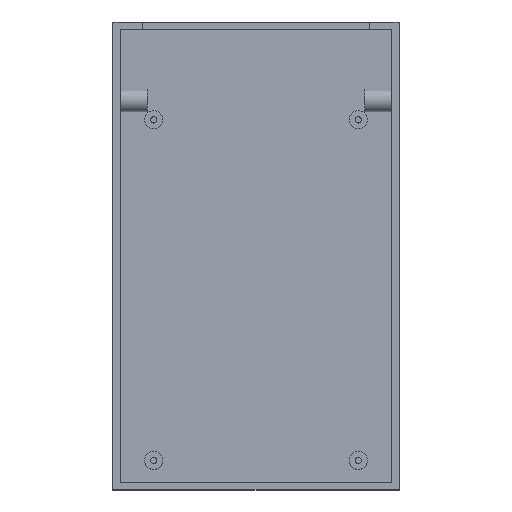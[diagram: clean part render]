
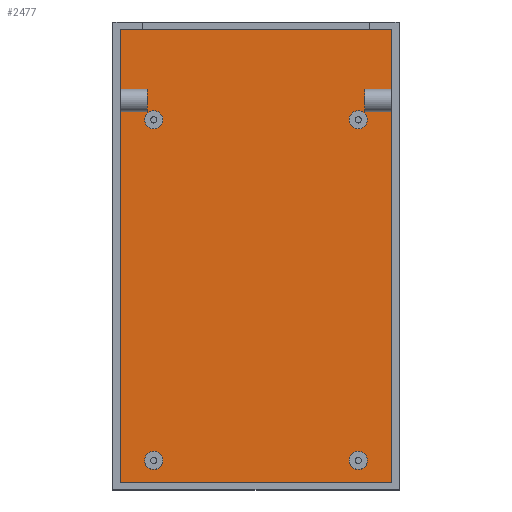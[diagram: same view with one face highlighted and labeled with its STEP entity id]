
A CAD part, top view. The second image highlights one B-rep face of the part: STEP entity #2477.
In plain terms, the highlighted planar face has unit normal (0, 0, 1).
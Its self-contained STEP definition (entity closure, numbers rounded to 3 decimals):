
#781 = PLANE('',#782);
#782 = AXIS2_PLACEMENT_3D('',#783,#784,#785);
#783 = CARTESIAN_POINT('',(0.,202.8,0.));
#784 = DIRECTION('',(0.,1.,0.));
#785 = DIRECTION('',(0.,0.,1.));
#809 = PLANE('',#810);
#810 = AXIS2_PLACEMENT_3D('',#811,#812,#813);
#811 = CARTESIAN_POINT('',(122.8,0.,0.));
#812 = DIRECTION('',(1.,0.,0.));
#813 = DIRECTION('',(0.,0.,1.));
#837 = PLANE('',#838);
#838 = AXIS2_PLACEMENT_3D('',#839,#840,#841);
#839 = CARTESIAN_POINT('',(0.,3.2,0.));
#840 = DIRECTION('',(0.,1.,0.));
#841 = DIRECTION('',(0.,0.,1.));
#865 = PLANE('',#866);
#866 = AXIS2_PLACEMENT_3D('',#867,#868,#869);
#867 = CARTESIAN_POINT('',(3.2,0.,0.));
#868 = DIRECTION('',(1.,0.,0.));
#869 = DIRECTION('',(0.,0.,1.));
#1973 = VERTEX_POINT('',#1974);
#1974 = CARTESIAN_POINT('',(122.8,202.8,3.2));
#1995 = EDGE_CURVE('',#1996,#1973,#1998,.T.);
#1996 = VERTEX_POINT('',#1997);
#1997 = CARTESIAN_POINT('',(3.2,202.8,3.2));
#1998 = SURFACE_CURVE('',#1999,(#2003,#2010),.PCURVE_S1.);
#1999 = LINE('',#2000,#2001);
#2000 = CARTESIAN_POINT('',(3.2,202.8,3.2));
#2001 = VECTOR('',#2002,1.);
#2002 = DIRECTION('',(1.,0.,0.));
#2003 = PCURVE('',#781,#2004);
#2004 = DEFINITIONAL_REPRESENTATION('',(#2005),#2009);
#2005 = LINE('',#2006,#2007);
#2006 = CARTESIAN_POINT('',(3.2,3.2));
#2007 = VECTOR('',#2008,1.);
#2008 = DIRECTION('',(0.,1.));
#2009 = ( GEOMETRIC_REPRESENTATION_CONTEXT(2) 
PARAMETRIC_REPRESENTATION_CONTEXT() REPRESENTATION_CONTEXT('2D SPACE',''
  ) );
#2010 = PCURVE('',#2011,#2016);
#2011 = PLANE('',#2012);
#2012 = AXIS2_PLACEMENT_3D('',#2013,#2014,#2015);
#2013 = CARTESIAN_POINT('',(0.,0.,3.2));
#2014 = DIRECTION('',(0.,0.,1.));
#2015 = DIRECTION('',(1.,0.,0.));
#2016 = DEFINITIONAL_REPRESENTATION('',(#2017),#2021);
#2017 = LINE('',#2018,#2019);
#2018 = CARTESIAN_POINT('',(3.2,202.8));
#2019 = VECTOR('',#2020,1.);
#2020 = DIRECTION('',(1.,0.));
#2021 = ( GEOMETRIC_REPRESENTATION_CONTEXT(2) 
PARAMETRIC_REPRESENTATION_CONTEXT() REPRESENTATION_CONTEXT('2D SPACE',''
  ) );
#2049 = VERTEX_POINT('',#2050);
#2050 = CARTESIAN_POINT('',(122.8,3.2,3.2));
#2069 = EDGE_CURVE('',#2049,#1973,#2070,.T.);
#2070 = SURFACE_CURVE('',#2071,(#2075,#2081),.PCURVE_S1.);
#2071 = LINE('',#2072,#2073);
#2072 = CARTESIAN_POINT('',(122.8,0.,3.2));
#2073 = VECTOR('',#2074,1.);
#2074 = DIRECTION('',(0.,1.,0.));
#2075 = PCURVE('',#809,#2076);
#2076 = DEFINITIONAL_REPRESENTATION('',(#2077),#2080);
#2077 = B_SPLINE_CURVE_WITH_KNOTS('',1,(#2078,#2079),.UNSPECIFIED.,.F.,
  .F.,(2,2),(0.,206.),.PIECEWISE_BEZIER_KNOTS.);
#2078 = CARTESIAN_POINT('',(3.2,0.));
#2079 = CARTESIAN_POINT('',(3.2,-206.));
#2080 = ( GEOMETRIC_REPRESENTATION_CONTEXT(2) 
PARAMETRIC_REPRESENTATION_CONTEXT() REPRESENTATION_CONTEXT('2D SPACE',''
  ) );
#2081 = PCURVE('',#2011,#2082);
#2082 = DEFINITIONAL_REPRESENTATION('',(#2083),#2086);
#2083 = B_SPLINE_CURVE_WITH_KNOTS('',1,(#2084,#2085),.UNSPECIFIED.,.F.,
  .F.,(2,2),(0.,206.),.PIECEWISE_BEZIER_KNOTS.);
#2084 = CARTESIAN_POINT('',(122.8,0.));
#2085 = CARTESIAN_POINT('',(122.8,206.));
#2086 = ( GEOMETRIC_REPRESENTATION_CONTEXT(2) 
PARAMETRIC_REPRESENTATION_CONTEXT() REPRESENTATION_CONTEXT('2D SPACE',''
  ) );
#2178 = EDGE_CURVE('',#2049,#2179,#2181,.T.);
#2179 = VERTEX_POINT('',#2180);
#2180 = CARTESIAN_POINT('',(3.2,3.2,3.2));
#2181 = SURFACE_CURVE('',#2182,(#2186,#2192),.PCURVE_S1.);
#2182 = LINE('',#2183,#2184);
#2183 = CARTESIAN_POINT('',(0.,3.2,3.2));
#2184 = VECTOR('',#2185,1.);
#2185 = DIRECTION('',(-1.,0.,0.));
#2186 = PCURVE('',#837,#2187);
#2187 = DEFINITIONAL_REPRESENTATION('',(#2188),#2191);
#2188 = B_SPLINE_CURVE_WITH_KNOTS('',1,(#2189,#2190),.UNSPECIFIED.,.F.,
  .F.,(2,2),(-122.8,-3.2),.PIECEWISE_BEZIER_KNOTS.);
#2189 = CARTESIAN_POINT('',(3.2,122.8));
#2190 = CARTESIAN_POINT('',(3.2,3.2));
#2191 = ( GEOMETRIC_REPRESENTATION_CONTEXT(2) 
PARAMETRIC_REPRESENTATION_CONTEXT() REPRESENTATION_CONTEXT('2D SPACE',''
  ) );
#2192 = PCURVE('',#2011,#2193);
#2193 = DEFINITIONAL_REPRESENTATION('',(#2194),#2197);
#2194 = B_SPLINE_CURVE_WITH_KNOTS('',1,(#2195,#2196),.UNSPECIFIED.,.F.,
  .F.,(2,2),(-122.8,-3.2),.PIECEWISE_BEZIER_KNOTS.);
#2195 = CARTESIAN_POINT('',(122.8,3.2));
#2196 = CARTESIAN_POINT('',(3.2,3.2));
#2197 = ( GEOMETRIC_REPRESENTATION_CONTEXT(2) 
PARAMETRIC_REPRESENTATION_CONTEXT() REPRESENTATION_CONTEXT('2D SPACE',''
  ) );
#2240 = EDGE_CURVE('',#2179,#1996,#2241,.T.);
#2241 = SURFACE_CURVE('',#2242,(#2246,#2252),.PCURVE_S1.);
#2242 = LINE('',#2243,#2244);
#2243 = CARTESIAN_POINT('',(3.2,0.,3.2));
#2244 = VECTOR('',#2245,1.);
#2245 = DIRECTION('',(0.,1.,0.));
#2246 = PCURVE('',#865,#2247);
#2247 = DEFINITIONAL_REPRESENTATION('',(#2248),#2251);
#2248 = B_SPLINE_CURVE_WITH_KNOTS('',1,(#2249,#2250),.UNSPECIFIED.,.F.,
  .F.,(2,2),(0.,206.),.PIECEWISE_BEZIER_KNOTS.);
#2249 = CARTESIAN_POINT('',(3.2,0.));
#2250 = CARTESIAN_POINT('',(3.2,-206.));
#2251 = ( GEOMETRIC_REPRESENTATION_CONTEXT(2) 
PARAMETRIC_REPRESENTATION_CONTEXT() REPRESENTATION_CONTEXT('2D SPACE',''
  ) );
#2252 = PCURVE('',#2011,#2253);
#2253 = DEFINITIONAL_REPRESENTATION('',(#2254),#2257);
#2254 = B_SPLINE_CURVE_WITH_KNOTS('',1,(#2255,#2256),.UNSPECIFIED.,.F.,
  .F.,(2,2),(0.,206.),.PIECEWISE_BEZIER_KNOTS.);
#2255 = CARTESIAN_POINT('',(3.2,0.));
#2256 = CARTESIAN_POINT('',(3.2,206.));
#2257 = ( GEOMETRIC_REPRESENTATION_CONTEXT(2) 
PARAMETRIC_REPRESENTATION_CONTEXT() REPRESENTATION_CONTEXT('2D SPACE',''
  ) );
#2477 = ADVANCED_FACE('',(#2478,#2484,#2515,#2546,#2577),#2011,.T.);
#2478 = FACE_BOUND('',#2479,.T.);
#2479 = EDGE_LOOP('',(#2480,#2481,#2482,#2483));
#2480 = ORIENTED_EDGE('',*,*,#1995,.F.);
#2481 = ORIENTED_EDGE('',*,*,#2240,.F.);
#2482 = ORIENTED_EDGE('',*,*,#2178,.F.);
#2483 = ORIENTED_EDGE('',*,*,#2069,.T.);
#2484 = FACE_BOUND('',#2485,.T.);
#2485 = EDGE_LOOP('',(#2486));
#2486 = ORIENTED_EDGE('',*,*,#2487,.F.);
#2487 = EDGE_CURVE('',#2488,#2488,#2490,.T.);
#2488 = VERTEX_POINT('',#2489);
#2489 = CARTESIAN_POINT('',(22.,13.,3.2));
#2490 = SURFACE_CURVE('',#2491,(#2496,#2503),.PCURVE_S1.);
#2491 = CIRCLE('',#2492,4.);
#2492 = AXIS2_PLACEMENT_3D('',#2493,#2494,#2495);
#2493 = CARTESIAN_POINT('',(18.,13.,3.2));
#2494 = DIRECTION('',(0.,0.,1.));
#2495 = DIRECTION('',(1.,0.,0.));
#2496 = PCURVE('',#2011,#2497);
#2497 = DEFINITIONAL_REPRESENTATION('',(#2498),#2502);
#2498 = CIRCLE('',#2499,4.);
#2499 = AXIS2_PLACEMENT_2D('',#2500,#2501);
#2500 = CARTESIAN_POINT('',(18.,13.));
#2501 = DIRECTION('',(1.,0.));
#2502 = ( GEOMETRIC_REPRESENTATION_CONTEXT(2) 
PARAMETRIC_REPRESENTATION_CONTEXT() REPRESENTATION_CONTEXT('2D SPACE',''
  ) );
#2503 = PCURVE('',#2504,#2509);
#2504 = CYLINDRICAL_SURFACE('',#2505,4.);
#2505 = AXIS2_PLACEMENT_3D('',#2506,#2507,#2508);
#2506 = CARTESIAN_POINT('',(18.,13.,3.2));
#2507 = DIRECTION('',(-0.,-0.,-1.));
#2508 = DIRECTION('',(1.,0.,0.));
#2509 = DEFINITIONAL_REPRESENTATION('',(#2510),#2514);
#2510 = LINE('',#2511,#2512);
#2511 = CARTESIAN_POINT('',(-0.,0.));
#2512 = VECTOR('',#2513,1.);
#2513 = DIRECTION('',(-1.,0.));
#2514 = ( GEOMETRIC_REPRESENTATION_CONTEXT(2) 
PARAMETRIC_REPRESENTATION_CONTEXT() REPRESENTATION_CONTEXT('2D SPACE',''
  ) );
#2515 = FACE_BOUND('',#2516,.T.);
#2516 = EDGE_LOOP('',(#2517));
#2517 = ORIENTED_EDGE('',*,*,#2518,.F.);
#2518 = EDGE_CURVE('',#2519,#2519,#2521,.T.);
#2519 = VERTEX_POINT('',#2520);
#2520 = CARTESIAN_POINT('',(112.,13.,3.2));
#2521 = SURFACE_CURVE('',#2522,(#2527,#2534),.PCURVE_S1.);
#2522 = CIRCLE('',#2523,4.);
#2523 = AXIS2_PLACEMENT_3D('',#2524,#2525,#2526);
#2524 = CARTESIAN_POINT('',(108.,13.,3.2));
#2525 = DIRECTION('',(0.,0.,1.));
#2526 = DIRECTION('',(1.,0.,0.));
#2527 = PCURVE('',#2011,#2528);
#2528 = DEFINITIONAL_REPRESENTATION('',(#2529),#2533);
#2529 = CIRCLE('',#2530,4.);
#2530 = AXIS2_PLACEMENT_2D('',#2531,#2532);
#2531 = CARTESIAN_POINT('',(108.,13.));
#2532 = DIRECTION('',(1.,0.));
#2533 = ( GEOMETRIC_REPRESENTATION_CONTEXT(2) 
PARAMETRIC_REPRESENTATION_CONTEXT() REPRESENTATION_CONTEXT('2D SPACE',''
  ) );
#2534 = PCURVE('',#2535,#2540);
#2535 = CYLINDRICAL_SURFACE('',#2536,4.);
#2536 = AXIS2_PLACEMENT_3D('',#2537,#2538,#2539);
#2537 = CARTESIAN_POINT('',(108.,13.,3.2));
#2538 = DIRECTION('',(-0.,-0.,-1.));
#2539 = DIRECTION('',(1.,0.,0.));
#2540 = DEFINITIONAL_REPRESENTATION('',(#2541),#2545);
#2541 = LINE('',#2542,#2543);
#2542 = CARTESIAN_POINT('',(-0.,0.));
#2543 = VECTOR('',#2544,1.);
#2544 = DIRECTION('',(-1.,0.));
#2545 = ( GEOMETRIC_REPRESENTATION_CONTEXT(2) 
PARAMETRIC_REPRESENTATION_CONTEXT() REPRESENTATION_CONTEXT('2D SPACE',''
  ) );
#2546 = FACE_BOUND('',#2547,.T.);
#2547 = EDGE_LOOP('',(#2548));
#2548 = ORIENTED_EDGE('',*,*,#2549,.F.);
#2549 = EDGE_CURVE('',#2550,#2550,#2552,.T.);
#2550 = VERTEX_POINT('',#2551);
#2551 = CARTESIAN_POINT('',(22.,163.,3.2));
#2552 = SURFACE_CURVE('',#2553,(#2558,#2565),.PCURVE_S1.);
#2553 = CIRCLE('',#2554,4.);
#2554 = AXIS2_PLACEMENT_3D('',#2555,#2556,#2557);
#2555 = CARTESIAN_POINT('',(18.,163.,3.2));
#2556 = DIRECTION('',(0.,0.,1.));
#2557 = DIRECTION('',(1.,0.,0.));
#2558 = PCURVE('',#2011,#2559);
#2559 = DEFINITIONAL_REPRESENTATION('',(#2560),#2564);
#2560 = CIRCLE('',#2561,4.);
#2561 = AXIS2_PLACEMENT_2D('',#2562,#2563);
#2562 = CARTESIAN_POINT('',(18.,163.));
#2563 = DIRECTION('',(1.,0.));
#2564 = ( GEOMETRIC_REPRESENTATION_CONTEXT(2) 
PARAMETRIC_REPRESENTATION_CONTEXT() REPRESENTATION_CONTEXT('2D SPACE',''
  ) );
#2565 = PCURVE('',#2566,#2571);
#2566 = CYLINDRICAL_SURFACE('',#2567,4.);
#2567 = AXIS2_PLACEMENT_3D('',#2568,#2569,#2570);
#2568 = CARTESIAN_POINT('',(18.,163.,3.2));
#2569 = DIRECTION('',(-0.,-0.,-1.));
#2570 = DIRECTION('',(1.,0.,0.));
#2571 = DEFINITIONAL_REPRESENTATION('',(#2572),#2576);
#2572 = LINE('',#2573,#2574);
#2573 = CARTESIAN_POINT('',(-0.,0.));
#2574 = VECTOR('',#2575,1.);
#2575 = DIRECTION('',(-1.,0.));
#2576 = ( GEOMETRIC_REPRESENTATION_CONTEXT(2) 
PARAMETRIC_REPRESENTATION_CONTEXT() REPRESENTATION_CONTEXT('2D SPACE',''
  ) );
#2577 = FACE_BOUND('',#2578,.T.);
#2578 = EDGE_LOOP('',(#2579));
#2579 = ORIENTED_EDGE('',*,*,#2580,.F.);
#2580 = EDGE_CURVE('',#2581,#2581,#2583,.T.);
#2581 = VERTEX_POINT('',#2582);
#2582 = CARTESIAN_POINT('',(112.,163.,3.2));
#2583 = SURFACE_CURVE('',#2584,(#2589,#2596),.PCURVE_S1.);
#2584 = CIRCLE('',#2585,4.);
#2585 = AXIS2_PLACEMENT_3D('',#2586,#2587,#2588);
#2586 = CARTESIAN_POINT('',(108.,163.,3.2));
#2587 = DIRECTION('',(0.,0.,1.));
#2588 = DIRECTION('',(1.,0.,0.));
#2589 = PCURVE('',#2011,#2590);
#2590 = DEFINITIONAL_REPRESENTATION('',(#2591),#2595);
#2591 = CIRCLE('',#2592,4.);
#2592 = AXIS2_PLACEMENT_2D('',#2593,#2594);
#2593 = CARTESIAN_POINT('',(108.,163.));
#2594 = DIRECTION('',(1.,0.));
#2595 = ( GEOMETRIC_REPRESENTATION_CONTEXT(2) 
PARAMETRIC_REPRESENTATION_CONTEXT() REPRESENTATION_CONTEXT('2D SPACE',''
  ) );
#2596 = PCURVE('',#2597,#2602);
#2597 = CYLINDRICAL_SURFACE('',#2598,4.);
#2598 = AXIS2_PLACEMENT_3D('',#2599,#2600,#2601);
#2599 = CARTESIAN_POINT('',(108.,163.,3.2));
#2600 = DIRECTION('',(-0.,-0.,-1.));
#2601 = DIRECTION('',(1.,0.,0.));
#2602 = DEFINITIONAL_REPRESENTATION('',(#2603),#2607);
#2603 = LINE('',#2604,#2605);
#2604 = CARTESIAN_POINT('',(-0.,0.));
#2605 = VECTOR('',#2606,1.);
#2606 = DIRECTION('',(-1.,0.));
#2607 = ( GEOMETRIC_REPRESENTATION_CONTEXT(2) 
PARAMETRIC_REPRESENTATION_CONTEXT() REPRESENTATION_CONTEXT('2D SPACE',''
  ) );
